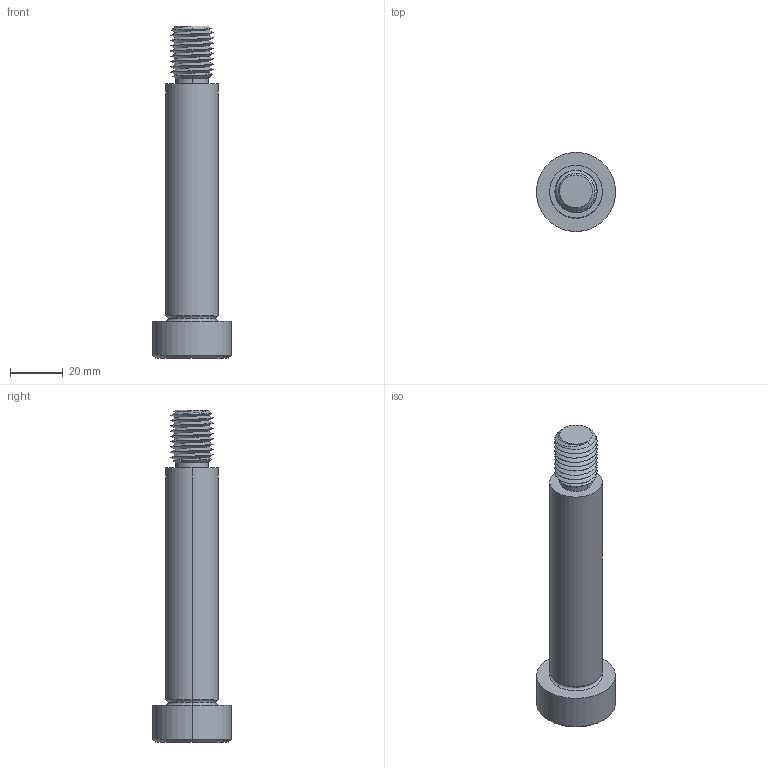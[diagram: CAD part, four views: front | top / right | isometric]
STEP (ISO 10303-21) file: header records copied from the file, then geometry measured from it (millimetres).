
FILE_DESCRIPTION (( 'STEP AP203' ), '1' );
FILE_NAME ('P0130.200-090-B2.step', '2021-11-09T22:27:16', ( '' ), ( '' ), 'SwSTEP 2.0', 'SolidWorks 2019', '' );
FILE_SCHEMA (( 'CONFIG_CONTROL_DESIGN' ));
Length unit declared in the file: millimetre
Products named in the file (1): P0130.200-090-B2
Bounding box: 30 x 30 x 126 mm (x, y, z)
Volume: 40470.3 mm3; surface area: 10558.8 mm2
Topology: 1 solids, 1 shells, 60 faces, 142 edges, 85 vertices
Faces by surface type: cylinder 24, plane 16, cone 14, torus 4, bspline 2
Entity records: 5678 total; most frequent: CARTESIAN_POINT 4332, ORIENTED_EDGE 280, DIRECTION 247, EDGE_CURVE 140, AXIS2_PLACEMENT_3D 99, VERTEX_POINT 85, EDGE_LOOP 63, ADVANCED_FACE 60
